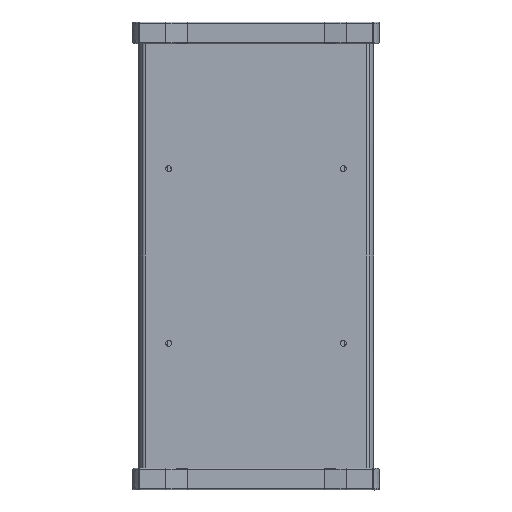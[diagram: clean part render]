
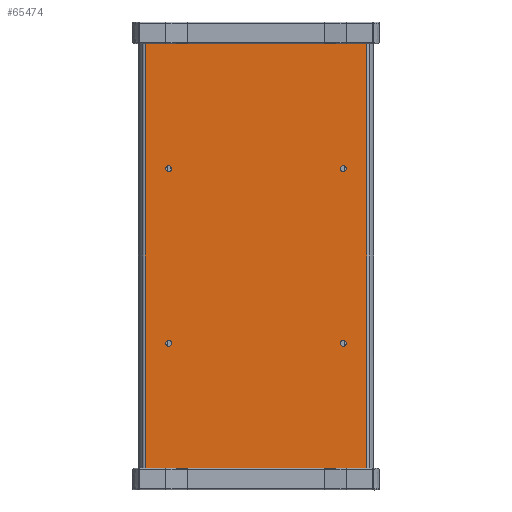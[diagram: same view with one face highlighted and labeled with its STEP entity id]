
A CAD part, front view. The second image highlights one B-rep face of the part: STEP entity #65474.
In plain terms, the highlighted planar face has unit normal (0, -1, 0).
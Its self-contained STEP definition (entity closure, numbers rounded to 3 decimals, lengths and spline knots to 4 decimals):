
#3282=DIRECTION('',(-1.,0.,0.));
#3283=VECTOR('',#3282,4.0978);
#3284=CARTESIAN_POINT('',(2.0489,0.,0.));
#3285=LINE('',#3284,#3283);
#3286=DIRECTION('',(-1.,0.,0.));
#3287=VECTOR('',#3286,4.0978);
#3288=CARTESIAN_POINT('',(2.0489,0.,-8.));
#3289=LINE('',#3288,#3287);
#3290=CARTESIAN_POINT('',(-1.615,0.,-2.385));
#3291=DIRECTION('',(0.,-1.,0.));
#3292=DIRECTION('',(1.,0.,0.));
#3293=AXIS2_PLACEMENT_3D('',#3290,#3291,#3292);
#3295=CARTESIAN_POINT('',(-1.615,0.,-2.385));
#3296=DIRECTION('',(0.,-1.,0.));
#3297=DIRECTION('',(-1.,0.,0.));
#3298=AXIS2_PLACEMENT_3D('',#3295,#3296,#3297);
#3300=CARTESIAN_POINT('',(1.615,0.,-2.385));
#3301=DIRECTION('',(0.,-1.,0.));
#3302=DIRECTION('',(1.,0.,0.));
#3303=AXIS2_PLACEMENT_3D('',#3300,#3301,#3302);
#3305=CARTESIAN_POINT('',(1.615,0.,-2.385));
#3306=DIRECTION('',(0.,-1.,0.));
#3307=DIRECTION('',(-1.,0.,0.));
#3308=AXIS2_PLACEMENT_3D('',#3305,#3306,#3307);
#3310=CARTESIAN_POINT('',(1.615,0.,-5.615));
#3311=DIRECTION('',(0.,-1.,0.));
#3312=DIRECTION('',(1.,0.,0.));
#3313=AXIS2_PLACEMENT_3D('',#3310,#3311,#3312);
#3315=CARTESIAN_POINT('',(1.615,0.,-5.615));
#3316=DIRECTION('',(0.,-1.,0.));
#3317=DIRECTION('',(-1.,0.,0.));
#3318=AXIS2_PLACEMENT_3D('',#3315,#3316,#3317);
#3320=CARTESIAN_POINT('',(-1.615,0.,-5.615));
#3321=DIRECTION('',(0.,-1.,0.));
#3322=DIRECTION('',(1.,0.,0.));
#3323=AXIS2_PLACEMENT_3D('',#3320,#3321,#3322);
#3325=CARTESIAN_POINT('',(-1.615,0.,-5.615));
#3326=DIRECTION('',(0.,-1.,0.));
#3327=DIRECTION('',(-1.,0.,0.));
#3328=AXIS2_PLACEMENT_3D('',#3325,#3326,#3327);
#3344=DIRECTION('',(0.,0.,1.));
#3345=VECTOR('',#3344,8.);
#3346=CARTESIAN_POINT('',(-2.0489,0.,-8.));
#3347=LINE('',#3346,#3345);
#3353=DIRECTION('',(0.,0.,1.));
#3354=VECTOR('',#3353,8.);
#3355=CARTESIAN_POINT('',(2.0489,0.,-8.));
#3356=LINE('',#3355,#3354);
#50917=CARTESIAN_POINT('',(-1.56,0.,-2.385));
#50918=CARTESIAN_POINT('',(-1.67,0.,-2.385));
#50919=VERTEX_POINT('',#50917);
#50920=VERTEX_POINT('',#50918);
#50921=CARTESIAN_POINT('',(1.67,0.,-2.385));
#50922=CARTESIAN_POINT('',(1.56,0.,-2.385));
#50923=VERTEX_POINT('',#50921);
#50924=VERTEX_POINT('',#50922);
#50925=CARTESIAN_POINT('',(1.67,0.,-5.615));
#50926=CARTESIAN_POINT('',(1.56,0.,-5.615));
#50927=VERTEX_POINT('',#50925);
#50928=VERTEX_POINT('',#50926);
#50929=CARTESIAN_POINT('',(-1.56,0.,-5.615));
#50930=CARTESIAN_POINT('',(-1.67,0.,-5.615));
#50931=VERTEX_POINT('',#50929);
#50932=VERTEX_POINT('',#50930);
#57698=CARTESIAN_POINT('',(2.0489,0.,0.));
#57699=CARTESIAN_POINT('',(-2.0489,0.,0.));
#57700=VERTEX_POINT('',#57698);
#57701=VERTEX_POINT('',#57699);
#60409=CARTESIAN_POINT('',(2.0489,0.,-8.));
#60410=CARTESIAN_POINT('',(-2.0489,0.,-8.));
#60411=VERTEX_POINT('',#60409);
#60412=VERTEX_POINT('',#60410);
#65436=CARTESIAN_POINT('',(2.025,0.,0.));
#65437=DIRECTION('',(0.,-1.,0.));
#65438=DIRECTION('',(-1.,0.,0.));
#65439=AXIS2_PLACEMENT_3D('',#65436,#65437,#65438);
#65440=PLANE('',#65439);
#65442=ORIENTED_EDGE('',*,*,#65441,.T.);
#65444=ORIENTED_EDGE('',*,*,#65443,.F.);
#65446=ORIENTED_EDGE('',*,*,#65445,.F.);
#65448=ORIENTED_EDGE('',*,*,#65447,.T.);
#65449=EDGE_LOOP('',(#65442,#65444,#65446,#65448));
#65450=FACE_OUTER_BOUND('',#65449,.F.);
#65451=ORIENTED_EDGE('',*,*,#65426,.T.);
#65453=ORIENTED_EDGE('',*,*,#65452,.T.);
#65454=EDGE_LOOP('',(#65451,#65453));
#65455=FACE_BOUND('',#65454,.F.);
#65457=ORIENTED_EDGE('',*,*,#65456,.T.);
#65459=ORIENTED_EDGE('',*,*,#65458,.T.);
#65460=EDGE_LOOP('',(#65457,#65459));
#65461=FACE_BOUND('',#65460,.F.);
#65463=ORIENTED_EDGE('',*,*,#65462,.T.);
#65465=ORIENTED_EDGE('',*,*,#65464,.T.);
#65466=EDGE_LOOP('',(#65463,#65465));
#65467=FACE_BOUND('',#65466,.F.);
#65469=ORIENTED_EDGE('',*,*,#65468,.T.);
#65471=ORIENTED_EDGE('',*,*,#65470,.T.);
#65472=EDGE_LOOP('',(#65469,#65471));
#65473=FACE_BOUND('',#65472,.F.);
#65474=ADVANCED_FACE('',(#65450,#65455,#65461,#65467,#65473),#65440,.T.);
#3294=CIRCLE('',#3293,0.055);
#3299=CIRCLE('',#3298,0.055);
#3304=CIRCLE('',#3303,0.055);
#3309=CIRCLE('',#3308,0.055);
#3314=CIRCLE('',#3313,0.055);
#3319=CIRCLE('',#3318,0.055);
#3324=CIRCLE('',#3323,0.055);
#3329=CIRCLE('',#3328,0.055);
#65426=EDGE_CURVE('',#50919,#50920,#3294,.T.);
#65441=EDGE_CURVE('',#60412,#57701,#3347,.T.);
#65443=EDGE_CURVE('',#57700,#57701,#3285,.T.);
#65445=EDGE_CURVE('',#60411,#57700,#3356,.T.);
#65447=EDGE_CURVE('',#60411,#60412,#3289,.T.);
#65452=EDGE_CURVE('',#50920,#50919,#3299,.T.);
#65456=EDGE_CURVE('',#50923,#50924,#3304,.T.);
#65458=EDGE_CURVE('',#50924,#50923,#3309,.T.);
#65462=EDGE_CURVE('',#50927,#50928,#3314,.T.);
#65464=EDGE_CURVE('',#50928,#50927,#3319,.T.);
#65468=EDGE_CURVE('',#50931,#50932,#3324,.T.);
#65470=EDGE_CURVE('',#50932,#50931,#3329,.T.);
